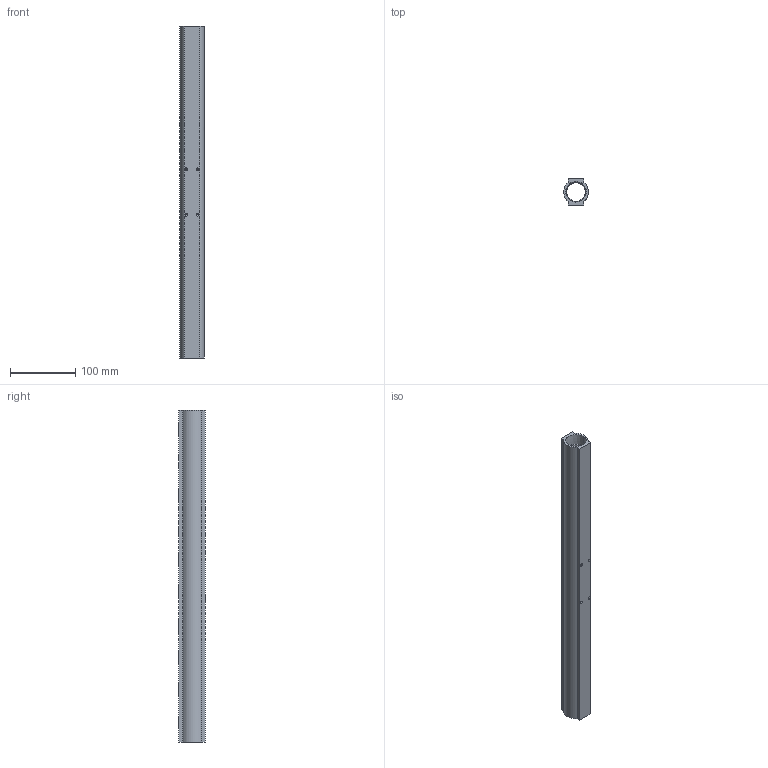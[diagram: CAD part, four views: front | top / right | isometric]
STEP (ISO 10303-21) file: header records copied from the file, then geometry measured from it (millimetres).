
FILE_DESCRIPTION (( 'STEP AP214' ), '1' );
FILE_NAME ('BWM10816B.STEP', '2022-03-15T04:34:32', ( '' ), ( '' ), 'SwSTEP 2.0', 'SolidWorks 2020', '' );
FILE_SCHEMA (( 'AUTOMOTIVE_DESIGN' ));
Length unit declared in the file: millimetre
Products named in the file (1): BWM10816B
Bounding box: 37.44 x 41 x 510 mm (x, y, z)
Volume: 278531.4 mm3; surface area: 117139.7 mm2
Topology: 1 solids, 1 shells, 230 faces, 613 edges, 402 vertices
Faces by surface type: plane 95, bspline 59, cylinder 44, cone 32
Entity records: 13331 total; most frequent: CARTESIAN_POINT 6063, ORIENTED_EDGE 1210, DIRECTION 787, EDGE_CURVE 605, VERTEX_POINT 402, LINE 295, VECTOR 295, EDGE_LOOP 277
